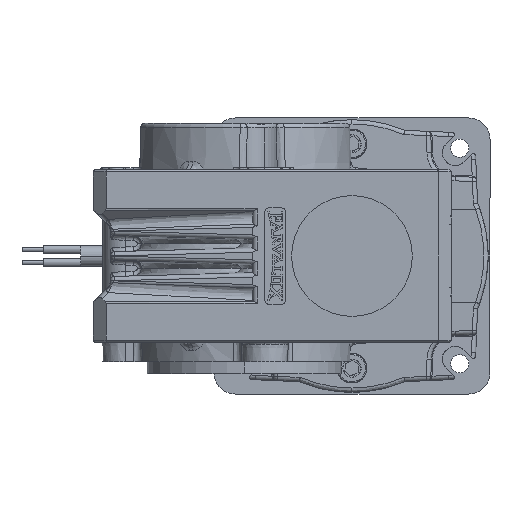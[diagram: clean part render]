
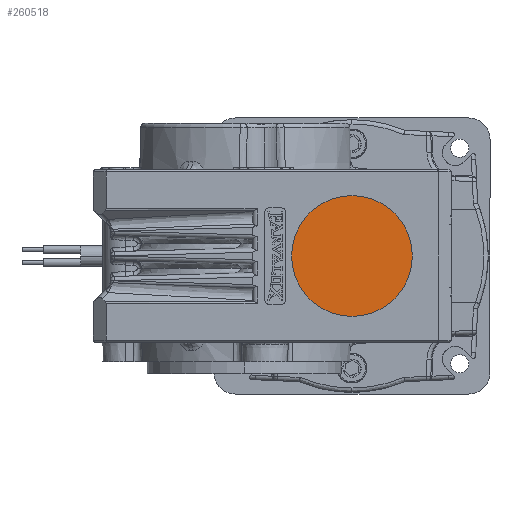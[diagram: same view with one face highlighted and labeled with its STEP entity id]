
A CAD part, left-side view. The second image highlights one B-rep face of the part: STEP entity #260518.
In plain terms, the highlighted planar face has unit normal (-1, 0, 0).
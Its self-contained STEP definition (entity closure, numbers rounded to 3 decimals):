
#3793 = CIRCLE ( 'NONE', #218645, 14. ) ;
#6289 = CARTESIAN_POINT ( 'NONE',  ( -152.84, 32., -46. ) ) ;
#10659 = PLANE ( 'NONE',  #38573 ) ;
#38573 = AXIS2_PLACEMENT_3D ( 'NONE', #138464, #201732, #118251 ) ;
#42590 = DIRECTION ( 'NONE',  ( 0., 0., -1. ) ) ;
#47634 = CIRCLE ( 'NONE', #223852, 14. ) ;
#49600 = DIRECTION ( 'NONE',  ( -1., 0., 0. ) ) ;
#67169 = DIRECTION ( 'NONE',  ( 0., 0., -1. ) ) ;
#71891 = EDGE_CURVE ( 'NONE', #81339, #251324, #47634, .T. ) ;
#81339 = VERTEX_POINT ( 'NONE', #162595 ) ;
#90002 = CARTESIAN_POINT ( 'NONE',  ( -152.84, 32., -32. ) ) ;
#118251 = DIRECTION ( 'NONE',  ( 0., 0., -1. ) ) ;
#138464 = CARTESIAN_POINT ( 'NONE',  ( -152.84, 32., -32. ) ) ;
#160426 = EDGE_CURVE ( 'NONE', #251324, #81339, #3793, .T. ) ;
#162595 = CARTESIAN_POINT ( 'NONE',  ( -152.84, 32., -18. ) ) ;
#174359 = ORIENTED_EDGE ( 'NONE', *, *, #160426, .T. ) ;
#194973 = FACE_OUTER_BOUND ( 'NONE', #200663, .T. ) ;
#200663 = EDGE_LOOP ( 'NONE', ( #228706, #174359 ) ) ;
#201732 = DIRECTION ( 'NONE',  ( -1., 0., 0. ) ) ;
#216369 = CARTESIAN_POINT ( 'NONE',  ( -152.84, 32., -32. ) ) ;
#218645 = AXIS2_PLACEMENT_3D ( 'NONE', #216369, #222976, #42590 ) ;
#222976 = DIRECTION ( 'NONE',  ( -1., 0., 0. ) ) ;
#223852 = AXIS2_PLACEMENT_3D ( 'NONE', #90002, #49600, #67169 ) ;
#228706 = ORIENTED_EDGE ( 'NONE', *, *, #71891, .T. ) ;
#251324 = VERTEX_POINT ( 'NONE', #6289 ) ;
#260518 = ADVANCED_FACE ( 'NONE', ( #194973 ), #10659, .T. ) ;
